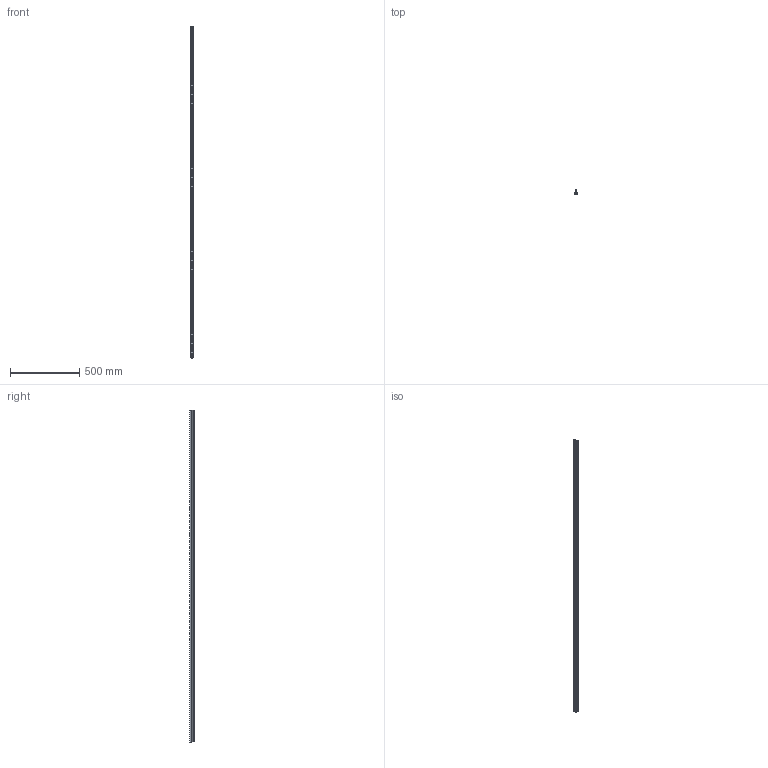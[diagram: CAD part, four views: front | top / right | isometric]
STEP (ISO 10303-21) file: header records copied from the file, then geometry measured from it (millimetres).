
FILE_DESCRIPTION (( 'STEP AP203' ), '1' );
FILE_NAME ('LFS-12-11_-_LFS-12-11 L=2398 - ArtNr 220002 2398.step', '2015-05-04T10:56:51', ( '' ), ( '' ), 'SwSTEP 2.0', 'SolidWorks 2014', '' );
FILE_SCHEMA (( 'CONFIG_CONTROL_DESIGN' ));
Length unit declared in the file: millimetre
Products named in the file (1): LFS-12-11_-_LFS-12-11 L=2398 - ArtNr 220002 2398
Bounding box: 20 x 31 x 2400 mm (x, y, z)
Volume: 725459.1 mm3; surface area: 324254.8 mm2
Topology: 1 solids, 1 shells, 1630 faces, 4360 edges, 2778 vertices
Faces by surface type: cylinder 783, plane 751, cone 48, torus 48
Full cylindrical faces by diameter (mm): 7 x48, 8 x48, 12 x1
Entity records: 52196 total; most frequent: CARTESIAN_POINT 15678, ORIENTED_EDGE 8140, DIRECTION 6597, EDGE_CURVE 4070, VERTEX_POINT 2681, AXIS2_PLACEMENT_3D 2240, VECTOR 2117, LINE 2117
